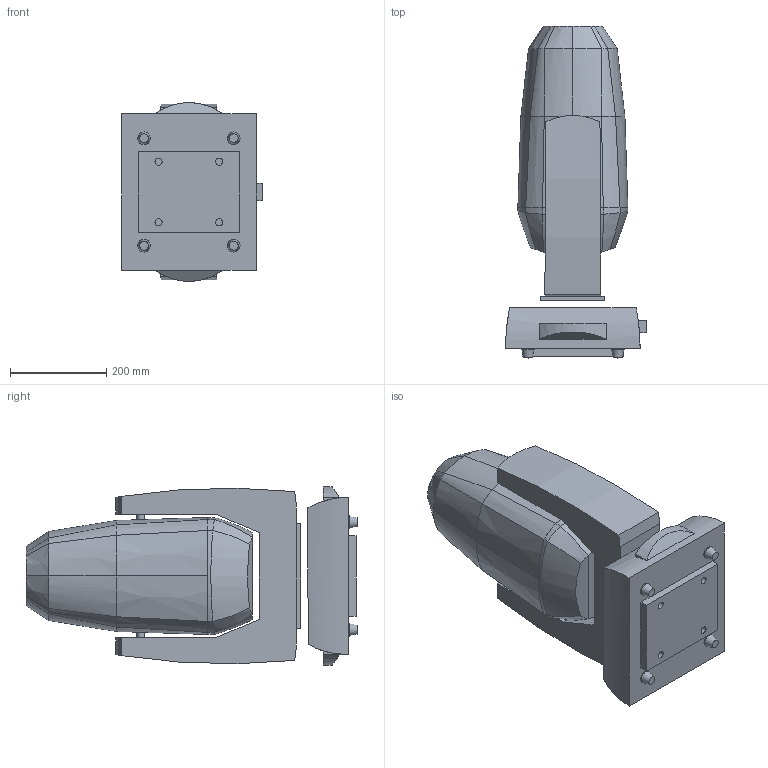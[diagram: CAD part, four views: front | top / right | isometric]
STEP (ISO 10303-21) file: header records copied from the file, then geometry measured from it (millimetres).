
FILE_DESCRIPTION(/* description */ (''),/* implementation_level */ '2;1');
FILE_NAME(/* name */ 'D:/dgooch/Documents/CADENG/PRO/Rogue Outcast 1 Hybrid/0/3D/Rogue Outcast 1 Hybrid_0.step',/* time_stamp */ '2020-01-27T09:28:17-05:00',/* author */ (''),/* organization */ (''),/* preprocessor_version */ 'ST-DEVELOPER v18',/* originating_system */ 'Autodesk Translation Framework v8.12.0.6',/* authorisation */ '');
FILE_SCHEMA (('AUTOMOTIVE_DESIGN { 1 0 10303 214 3 1 1 }'));
Length unit declared in the file: millimetre
Products named in the file (4): Rogue Outcast 1 Hybrid-20200117; Head (1); Base (1); Arm (1)
Assembly tree (3 placements, depth 2):
  Rogue Outcast 1 Hybrid-20200117
    Head (1)
    Base (1)
    Arm (1)
Bounding box: 293.01 x 691.33 x 372.32 mm (x, y, z)
Volume: 33519938.8 mm3; surface area: 1098014.5 mm2
Topology: 3 solids, 3 shells, 128 faces, 322 edges, 210 vertices
Faces by surface type: bspline 50, plane 49, cylinder 21, cone 8
Full cylindrical faces by diameter (mm): 14.903 x4, 16.258 x2, 26.194 x4, 119.599 x1
Entity records: 30328 total; most frequent: CARTESIAN_POINT 27371, ORIENTED_EDGE 644, DIRECTION 494, EDGE_CURVE 322, VERTEX_POINT 210, AXIS2_PLACEMENT_3D 178, EDGE_LOOP 146, LINE 138
